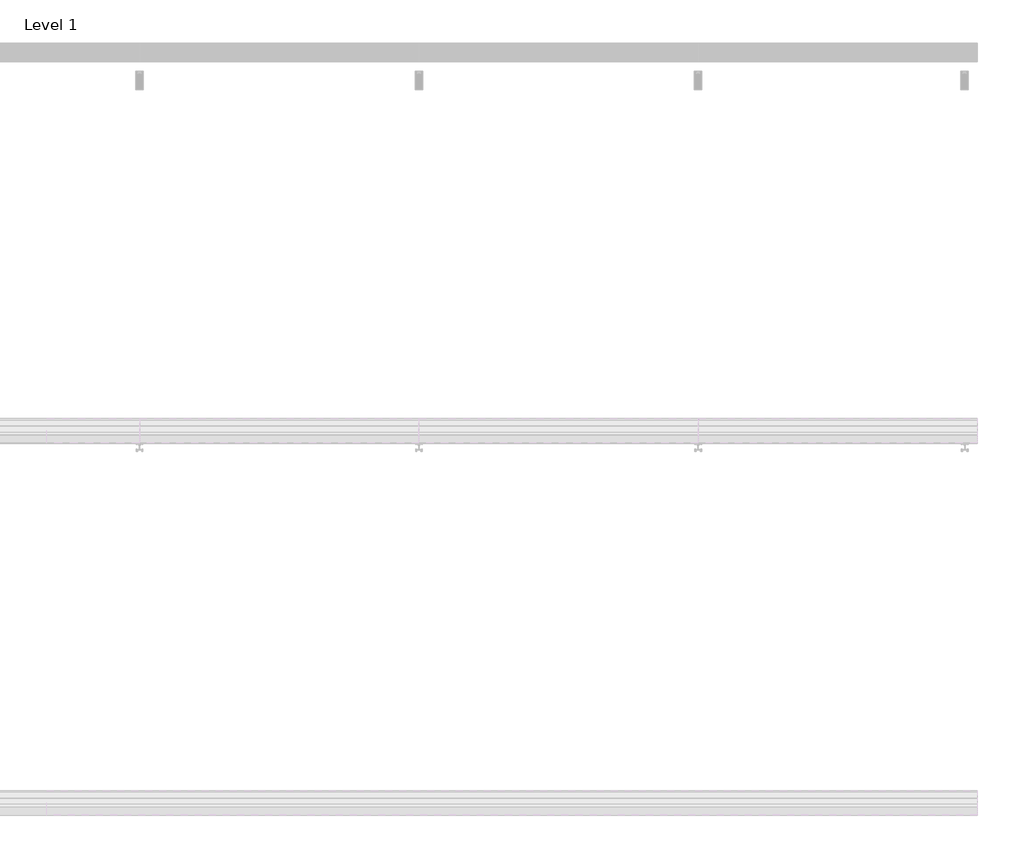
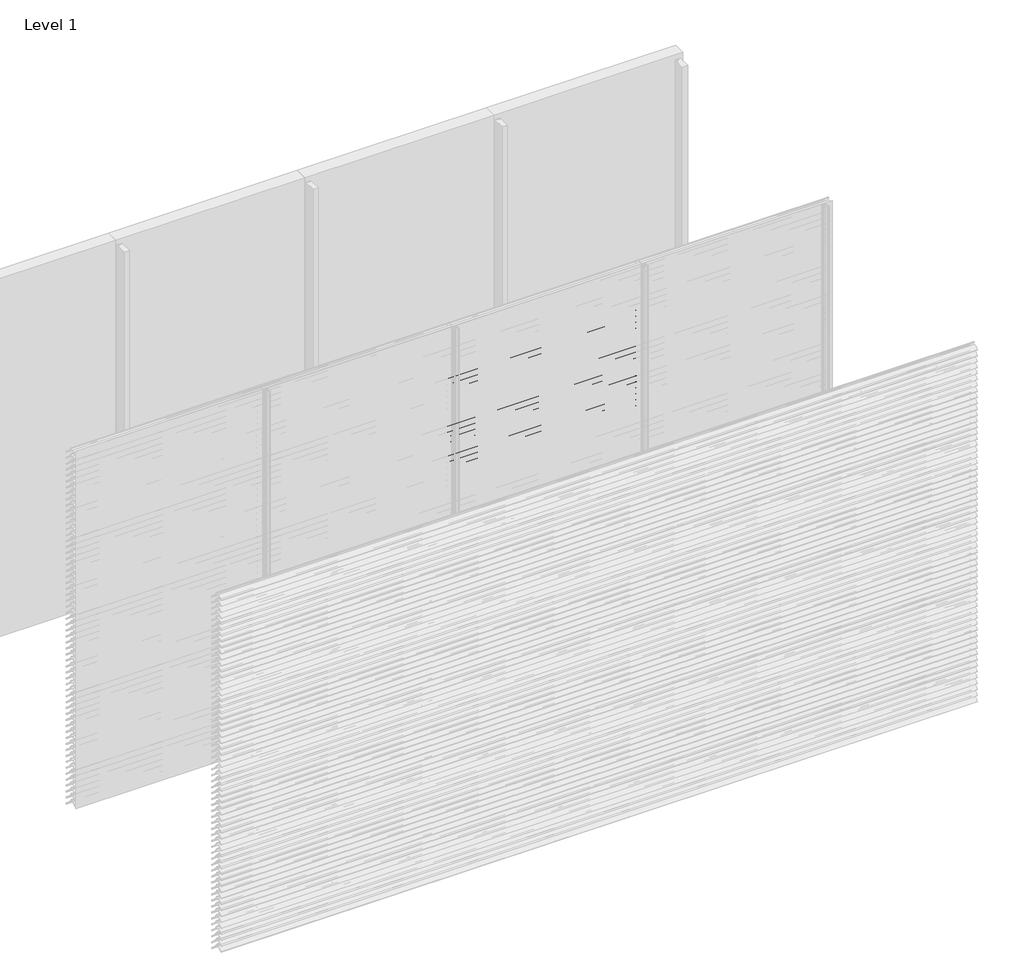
# One storey, part 48 of 173: 17 proxies.
"""IFC4 building model written with IfcOpenShell, lengths in millimetres."""

from ifc_helpers import new_model, si_unit, point, frame, frame_2d, origin, place, context, project, spatial, polyline, circle_curve, trimmed, segment, composite_curve, outline, extrude, element, save

model = new_model("IFC4")

# Units and contexts
model_context = context("Model", 3, world=origin())
ifc_project = project(units=[si_unit("LENGTHUNIT", "METRE", prefix="MILLI")], contexts=[model_context])

# Site, building, storey
site = spatial("IfcSite", under=ifc_project)
building = spatial("IfcBuilding", under=site)
storey = spatial("IfcBuildingStorey", under=building, Name="Level 1", Elevation=0.0)

# Proxies
placement = place(None, origin())
element("IfcBuildingElementProxy", 1, Name="Wall Sweeps", at=placement, inside=storey, context=model_context, shape_type="SweptSolid", body=[
    extrude(outline(composite_curve([segment(polyline([(-41998.0, 2559.1474905), (-41998.0, 2561.6227417)]), True, "CONTINUOUS"), segment(trimmed(circle_curve(frame_2d((-41951.2682172, 2516.2200208)), 65.1557103), [point((-41998.0, 2561.6227417))], [point((-41954.4014323, 2581.3003524))], False, "CARTESIAN"), True, "CONTINUOUS"), segment(polyline([(-41954.4014323, 2581.3003524), (-41934.8315836, 2581.3003524)]), True, "CONTINUOUS"), segment(trimmed(circle_curve(frame_2d((-41732.7329489, 2728.5533172)), 250.0545817), [point((-41934.8315836, 2581.3003524))], [point((-41941.4452143, 2590.8344583))], False, "CARTESIAN"), True, "CONTINUOUS"), segment(trimmed(circle_curve(frame_2d((-41953.2981792, 2585.1737835)), 13.1352966), [point((-41941.4452143, 2590.8344583))], [point((-41953.8171475, 2598.298824))], True, "CARTESIAN"), True, "CONTINUOUS"), segment(polyline([(-41953.8171475, 2598.298824), (-41953.8171475, 2600.0)]), True, "CONTINUOUS"), segment(trimmed(circle_curve(frame_2d((-41953.2981792, 2585.1737835)), 14.8352966), [point((-41953.8171475, 2600.0))], [point((-41939.9637661, 2591.6760487))], False, "CARTESIAN"), True, "CONTINUOUS"), segment(trimmed(circle_curve(frame_2d((-41732.7329489, 2728.5533172)), 248.3545817), [point((-41939.9637661, 2591.6760487))], [point((-41873.8787895, 2524.2059416))], True, "CARTESIAN"), True, "CONTINUOUS"), segment(trimmed(circle_curve(frame_2d((-41883.8147537, 2511.6649442)), 16.0), [point((-41873.8787895, 2524.2059416))], [point((-41867.8648347, 2510.4))], False, "CARTESIAN"), True, "CONTINUOUS"), segment(polyline([(-41867.8648347, 2510.4), (-41869.6712069, 2510.4)]), True, "CONTINUOUS"), segment(trimmed(circle_curve(frame_2d((-41883.8147537, 2511.6649442)), 14.2), [point((-41869.6712069, 2510.4))], [point((-41874.9518628, 2522.7594998))], True, "CARTESIAN"), True, "CONTINUOUS"), segment(trimmed(circle_curve(frame_2d((-41732.7329489, 2728.5533172)), 250.1545817), [point((-41874.9518628, 2522.7594998))], [point((-41933.7064024, 2579.6003524))], False, "CARTESIAN"), True, "CONTINUOUS"), segment(polyline([(-41933.7064024, 2579.6003524), (-41954.3602632, 2579.6003524)]), True, "CONTINUOUS"), segment(trimmed(circle_curve(frame_2d((-41951.2682172, 2516.2200208)), 63.4557103), [point((-41954.3602632, 2579.6003524))], [point((-41998.0, 2559.1474905))], True, "CARTESIAN"), True, "CONTINUOUS")], self_intersect=False)), frame((3000.0, 0.0, 0.0), z_axis=(1.0, 0.0, 0.0), x_axis=(0.0, 1.0, 0.0)), (0.0, 0.0, 1.0), 1500.0),
])
element("IfcBuildingElementProxy", 2, Name="Wall Sweeps", at=placement, inside=storey, context=model_context, shape_type="SweptSolid", body=[
    extrude(outline(composite_curve([segment(polyline([(-41998.0, 2509.1474905), (-41998.0, 2511.6227417)]), True, "CONTINUOUS"), segment(trimmed(circle_curve(frame_2d((-41951.2682172, 2466.2200208)), 65.1557103), [point((-41998.0, 2511.6227417))], [point((-41954.4014323, 2531.3003524))], False, "CARTESIAN"), True, "CONTINUOUS"), segment(polyline([(-41954.4014323, 2531.3003524), (-41934.8315836, 2531.3003524)]), True, "CONTINUOUS"), segment(trimmed(circle_curve(frame_2d((-41732.7329489, 2678.5533172)), 250.0545817), [point((-41934.8315836, 2531.3003524))], [point((-41941.4452143, 2540.8344583))], False, "CARTESIAN"), True, "CONTINUOUS"), segment(trimmed(circle_curve(frame_2d((-41953.2981792, 2535.1737835)), 13.1352966), [point((-41941.4452143, 2540.8344583))], [point((-41953.8171475, 2548.298824))], True, "CARTESIAN"), True, "CONTINUOUS"), segment(polyline([(-41953.8171475, 2548.298824), (-41953.8171475, 2550.0)]), True, "CONTINUOUS"), segment(trimmed(circle_curve(frame_2d((-41953.2981792, 2535.1737835)), 14.8352966), [point((-41953.8171475, 2550.0))], [point((-41939.9637661, 2541.6760487))], False, "CARTESIAN"), True, "CONTINUOUS"), segment(trimmed(circle_curve(frame_2d((-41732.7329489, 2678.5533172)), 248.3545817), [point((-41939.9637661, 2541.6760487))], [point((-41873.8787895, 2474.2059416))], True, "CARTESIAN"), True, "CONTINUOUS"), segment(trimmed(circle_curve(frame_2d((-41883.8147537, 2461.6649442)), 16.0), [point((-41873.8787895, 2474.2059416))], [point((-41867.8648347, 2460.4))], False, "CARTESIAN"), True, "CONTINUOUS"), segment(polyline([(-41867.8648347, 2460.4), (-41869.6712069, 2460.4)]), True, "CONTINUOUS"), segment(trimmed(circle_curve(frame_2d((-41883.8147537, 2461.6649442)), 14.2), [point((-41869.6712069, 2460.4))], [point((-41874.9518628, 2472.7594998))], True, "CARTESIAN"), True, "CONTINUOUS"), segment(trimmed(circle_curve(frame_2d((-41732.7329489, 2678.5533172)), 250.1545817), [point((-41874.9518628, 2472.7594998))], [point((-41933.7064024, 2529.6003524))], False, "CARTESIAN"), True, "CONTINUOUS"), segment(polyline([(-41933.7064024, 2529.6003524), (-41954.3602632, 2529.6003524)]), True, "CONTINUOUS"), segment(trimmed(circle_curve(frame_2d((-41951.2682172, 2466.2200208)), 63.4557103), [point((-41954.3602632, 2529.6003524))], [point((-41998.0, 2509.1474905))], True, "CARTESIAN"), True, "CONTINUOUS")], self_intersect=False)), frame((3000.0, 0.0, 0.0), z_axis=(1.0, 0.0, 0.0), x_axis=(0.0, 1.0, 0.0)), (0.0, 0.0, 1.0), 1500.0),
])
element("IfcBuildingElementProxy", 3, Name="Wall Sweeps", at=placement, inside=storey, context=model_context, shape_type="SweptSolid", body=[
    extrude(outline(composite_curve([segment(polyline([(-41998.0, 2459.1474905), (-41998.0, 2461.6227417)]), True, "CONTINUOUS"), segment(trimmed(circle_curve(frame_2d((-41951.2682172, 2416.2200208)), 65.1557103), [point((-41998.0, 2461.6227417))], [point((-41954.4014323, 2481.3003524))], False, "CARTESIAN"), True, "CONTINUOUS"), segment(polyline([(-41954.4014323, 2481.3003524), (-41934.8315836, 2481.3003524)]), True, "CONTINUOUS"), segment(trimmed(circle_curve(frame_2d((-41732.7329489, 2628.5533172)), 250.0545817), [point((-41934.8315836, 2481.3003524))], [point((-41941.4452143, 2490.8344583))], False, "CARTESIAN"), True, "CONTINUOUS"), segment(trimmed(circle_curve(frame_2d((-41953.2981792, 2485.1737835)), 13.1352966), [point((-41941.4452143, 2490.8344583))], [point((-41953.8171475, 2498.298824))], True, "CARTESIAN"), True, "CONTINUOUS"), segment(polyline([(-41953.8171475, 2498.298824), (-41953.8171475, 2500.0)]), True, "CONTINUOUS"), segment(trimmed(circle_curve(frame_2d((-41953.2981792, 2485.1737835)), 14.8352966), [point((-41953.8171475, 2500.0))], [point((-41939.9637661, 2491.6760487))], False, "CARTESIAN"), True, "CONTINUOUS"), segment(trimmed(circle_curve(frame_2d((-41732.7329489, 2628.5533172)), 248.3545817), [point((-41939.9637661, 2491.6760487))], [point((-41873.8787895, 2424.2059416))], True, "CARTESIAN"), True, "CONTINUOUS"), segment(trimmed(circle_curve(frame_2d((-41883.8147537, 2411.6649442)), 16.0), [point((-41873.8787895, 2424.2059416))], [point((-41867.8648347, 2410.4))], False, "CARTESIAN"), True, "CONTINUOUS"), segment(polyline([(-41867.8648347, 2410.4), (-41869.6712069, 2410.4)]), True, "CONTINUOUS"), segment(trimmed(circle_curve(frame_2d((-41883.8147537, 2411.6649442)), 14.2), [point((-41869.6712069, 2410.4))], [point((-41874.9518628, 2422.7594998))], True, "CARTESIAN"), True, "CONTINUOUS"), segment(trimmed(circle_curve(frame_2d((-41732.7329489, 2628.5533172)), 250.1545817), [point((-41874.9518628, 2422.7594998))], [point((-41933.7064024, 2479.6003524))], False, "CARTESIAN"), True, "CONTINUOUS"), segment(polyline([(-41933.7064024, 2479.6003524), (-41954.3602632, 2479.6003524)]), True, "CONTINUOUS"), segment(trimmed(circle_curve(frame_2d((-41951.2682172, 2416.2200208)), 63.4557103), [point((-41954.3602632, 2479.6003524))], [point((-41998.0, 2459.1474905))], True, "CARTESIAN"), True, "CONTINUOUS")], self_intersect=False)), frame((3000.0, 0.0, 0.0), z_axis=(1.0, 0.0, 0.0), x_axis=(0.0, 1.0, 0.0)), (0.0, 0.0, 1.0), 1500.0),
])
element("IfcBuildingElementProxy", 4, Name="Wall Sweeps", at=placement, inside=storey, context=model_context, shape_type="SweptSolid", body=[
    extrude(outline(composite_curve([segment(polyline([(-41998.0, 2409.1474905), (-41998.0, 2411.6227417)]), True, "CONTINUOUS"), segment(trimmed(circle_curve(frame_2d((-41951.2682172, 2366.2200208)), 65.1557103), [point((-41998.0, 2411.6227417))], [point((-41954.4014323, 2431.3003524))], False, "CARTESIAN"), True, "CONTINUOUS"), segment(polyline([(-41954.4014323, 2431.3003524), (-41934.8315836, 2431.3003524)]), True, "CONTINUOUS"), segment(trimmed(circle_curve(frame_2d((-41732.7329489, 2578.5533172)), 250.0545817), [point((-41934.8315836, 2431.3003524))], [point((-41941.4452143, 2440.8344583))], False, "CARTESIAN"), True, "CONTINUOUS"), segment(trimmed(circle_curve(frame_2d((-41953.2981792, 2435.1737835)), 13.1352966), [point((-41941.4452143, 2440.8344583))], [point((-41953.8171475, 2448.298824))], True, "CARTESIAN"), True, "CONTINUOUS"), segment(polyline([(-41953.8171475, 2448.298824), (-41953.8171475, 2450.0)]), True, "CONTINUOUS"), segment(trimmed(circle_curve(frame_2d((-41953.2981792, 2435.1737835)), 14.8352966), [point((-41953.8171475, 2450.0))], [point((-41939.9637661, 2441.6760487))], False, "CARTESIAN"), True, "CONTINUOUS"), segment(trimmed(circle_curve(frame_2d((-41732.7329489, 2578.5533172)), 248.3545817), [point((-41939.9637661, 2441.6760487))], [point((-41873.8787895, 2374.2059416))], True, "CARTESIAN"), True, "CONTINUOUS"), segment(trimmed(circle_curve(frame_2d((-41883.8147537, 2361.6649442)), 16.0), [point((-41873.8787895, 2374.2059416))], [point((-41867.8648347, 2360.4))], False, "CARTESIAN"), True, "CONTINUOUS"), segment(polyline([(-41867.8648347, 2360.4), (-41869.6712069, 2360.4)]), True, "CONTINUOUS"), segment(trimmed(circle_curve(frame_2d((-41883.8147537, 2361.6649442)), 14.2), [point((-41869.6712069, 2360.4))], [point((-41874.9518628, 2372.7594998))], True, "CARTESIAN"), True, "CONTINUOUS"), segment(trimmed(circle_curve(frame_2d((-41732.7329489, 2578.5533172)), 250.1545817), [point((-41874.9518628, 2372.7594998))], [point((-41933.7064024, 2429.6003524))], False, "CARTESIAN"), True, "CONTINUOUS"), segment(polyline([(-41933.7064024, 2429.6003524), (-41954.3602632, 2429.6003524)]), True, "CONTINUOUS"), segment(trimmed(circle_curve(frame_2d((-41951.2682172, 2366.2200208)), 63.4557103), [point((-41954.3602632, 2429.6003524))], [point((-41998.0, 2409.1474905))], True, "CARTESIAN"), True, "CONTINUOUS")], self_intersect=False)), frame((3000.0, 0.0, 0.0), z_axis=(1.0, 0.0, 0.0), x_axis=(0.0, 1.0, 0.0)), (0.0, 0.0, 1.0), 1500.0),
])
element("IfcBuildingElementProxy", 5, Name="Wall Sweeps", at=placement, inside=storey, context=model_context, shape_type="SweptSolid", body=[
    extrude(outline(composite_curve([segment(polyline([(-41998.0, 2359.1474905), (-41998.0, 2361.6227417)]), True, "CONTINUOUS"), segment(trimmed(circle_curve(frame_2d((-41951.2682172, 2316.2200208)), 65.1557103), [point((-41998.0, 2361.6227417))], [point((-41954.4014323, 2381.3003524))], False, "CARTESIAN"), True, "CONTINUOUS"), segment(polyline([(-41954.4014323, 2381.3003524), (-41934.8315836, 2381.3003524)]), True, "CONTINUOUS"), segment(trimmed(circle_curve(frame_2d((-41732.7329489, 2528.5533172)), 250.0545817), [point((-41934.8315836, 2381.3003524))], [point((-41941.4452143, 2390.8344583))], False, "CARTESIAN"), True, "CONTINUOUS"), segment(trimmed(circle_curve(frame_2d((-41953.2981792, 2385.1737835)), 13.1352966), [point((-41941.4452143, 2390.8344583))], [point((-41953.8171475, 2398.298824))], True, "CARTESIAN"), True, "CONTINUOUS"), segment(polyline([(-41953.8171475, 2398.298824), (-41953.8171475, 2400.0)]), True, "CONTINUOUS"), segment(trimmed(circle_curve(frame_2d((-41953.2981792, 2385.1737835)), 14.8352966), [point((-41953.8171475, 2400.0))], [point((-41939.9637661, 2391.6760487))], False, "CARTESIAN"), True, "CONTINUOUS"), segment(trimmed(circle_curve(frame_2d((-41732.7329489, 2528.5533172)), 248.3545817), [point((-41939.9637661, 2391.6760487))], [point((-41873.8787895, 2324.2059416))], True, "CARTESIAN"), True, "CONTINUOUS"), segment(trimmed(circle_curve(frame_2d((-41883.8147537, 2311.6649442)), 16.0), [point((-41873.8787895, 2324.2059416))], [point((-41867.8648347, 2310.4))], False, "CARTESIAN"), True, "CONTINUOUS"), segment(polyline([(-41867.8648347, 2310.4), (-41869.6712069, 2310.4)]), True, "CONTINUOUS"), segment(trimmed(circle_curve(frame_2d((-41883.8147537, 2311.6649442)), 14.2), [point((-41869.6712069, 2310.4))], [point((-41874.9518628, 2322.7594998))], True, "CARTESIAN"), True, "CONTINUOUS"), segment(trimmed(circle_curve(frame_2d((-41732.7329489, 2528.5533172)), 250.1545817), [point((-41874.9518628, 2322.7594998))], [point((-41933.7064024, 2379.6003524))], False, "CARTESIAN"), True, "CONTINUOUS"), segment(polyline([(-41933.7064024, 2379.6003524), (-41954.3602632, 2379.6003524)]), True, "CONTINUOUS"), segment(trimmed(circle_curve(frame_2d((-41951.2682172, 2316.2200208)), 63.4557103), [point((-41954.3602632, 2379.6003524))], [point((-41998.0, 2359.1474905))], True, "CARTESIAN"), True, "CONTINUOUS")], self_intersect=False)), frame((3000.0, 0.0, 0.0), z_axis=(1.0, 0.0, 0.0), x_axis=(0.0, 1.0, 0.0)), (0.0, 0.0, 1.0), 1500.0),
])
element("IfcBuildingElementProxy", 6, Name="Wall Sweeps", at=placement, inside=storey, context=model_context, shape_type="SweptSolid", body=[
    extrude(outline(composite_curve([segment(polyline([(-41998.0, 2309.1474905), (-41998.0, 2311.6227417)]), True, "CONTINUOUS"), segment(trimmed(circle_curve(frame_2d((-41951.2682172, 2266.2200208)), 65.1557103), [point((-41998.0, 2311.6227417))], [point((-41954.4014323, 2331.3003524))], False, "CARTESIAN"), True, "CONTINUOUS"), segment(polyline([(-41954.4014323, 2331.3003524), (-41934.8315836, 2331.3003524)]), True, "CONTINUOUS"), segment(trimmed(circle_curve(frame_2d((-41732.7329489, 2478.5533172)), 250.0545817), [point((-41934.8315836, 2331.3003524))], [point((-41941.4452143, 2340.8344583))], False, "CARTESIAN"), True, "CONTINUOUS"), segment(trimmed(circle_curve(frame_2d((-41953.2981792, 2335.1737835)), 13.1352966), [point((-41941.4452143, 2340.8344583))], [point((-41953.8171475, 2348.298824))], True, "CARTESIAN"), True, "CONTINUOUS"), segment(polyline([(-41953.8171475, 2348.298824), (-41953.8171475, 2350.0)]), True, "CONTINUOUS"), segment(trimmed(circle_curve(frame_2d((-41953.2981792, 2335.1737835)), 14.8352966), [point((-41953.8171475, 2350.0))], [point((-41939.9637661, 2341.6760487))], False, "CARTESIAN"), True, "CONTINUOUS"), segment(trimmed(circle_curve(frame_2d((-41732.7329489, 2478.5533172)), 248.3545817), [point((-41939.9637661, 2341.6760487))], [point((-41873.8787895, 2274.2059416))], True, "CARTESIAN"), True, "CONTINUOUS"), segment(trimmed(circle_curve(frame_2d((-41883.8147537, 2261.6649442)), 16.0), [point((-41873.8787895, 2274.2059416))], [point((-41867.8648347, 2260.4))], False, "CARTESIAN"), True, "CONTINUOUS"), segment(polyline([(-41867.8648347, 2260.4), (-41869.6712069, 2260.4)]), True, "CONTINUOUS"), segment(trimmed(circle_curve(frame_2d((-41883.8147537, 2261.6649442)), 14.2), [point((-41869.6712069, 2260.4))], [point((-41874.9518628, 2272.7594998))], True, "CARTESIAN"), True, "CONTINUOUS"), segment(trimmed(circle_curve(frame_2d((-41732.7329489, 2478.5533172)), 250.1545817), [point((-41874.9518628, 2272.7594998))], [point((-41933.7064024, 2329.6003524))], False, "CARTESIAN"), True, "CONTINUOUS"), segment(polyline([(-41933.7064024, 2329.6003524), (-41954.3602632, 2329.6003524)]), True, "CONTINUOUS"), segment(trimmed(circle_curve(frame_2d((-41951.2682172, 2266.2200208)), 63.4557103), [point((-41954.3602632, 2329.6003524))], [point((-41998.0, 2309.1474905))], True, "CARTESIAN"), True, "CONTINUOUS")], self_intersect=False)), frame((3000.0, 0.0, 0.0), z_axis=(1.0, 0.0, 0.0), x_axis=(0.0, 1.0, 0.0)), (0.0, 0.0, 1.0), 1500.0),
])
element("IfcBuildingElementProxy", 7, Name="Wall Sweeps", at=placement, inside=storey, context=model_context, shape_type="SweptSolid", body=[
    extrude(outline(composite_curve([segment(polyline([(-41998.0, 2259.1474905), (-41998.0, 2261.6227417)]), True, "CONTINUOUS"), segment(trimmed(circle_curve(frame_2d((-41951.2682172, 2216.2200208)), 65.1557103), [point((-41998.0, 2261.6227417))], [point((-41954.4014323, 2281.3003524))], False, "CARTESIAN"), True, "CONTINUOUS"), segment(polyline([(-41954.4014323, 2281.3003524), (-41934.8315836, 2281.3003524)]), True, "CONTINUOUS"), segment(trimmed(circle_curve(frame_2d((-41732.7329489, 2428.5533172)), 250.0545817), [point((-41934.8315836, 2281.3003524))], [point((-41941.4452143, 2290.8344583))], False, "CARTESIAN"), True, "CONTINUOUS"), segment(trimmed(circle_curve(frame_2d((-41953.2981792, 2285.1737835)), 13.1352966), [point((-41941.4452143, 2290.8344583))], [point((-41953.8171475, 2298.298824))], True, "CARTESIAN"), True, "CONTINUOUS"), segment(polyline([(-41953.8171475, 2298.298824), (-41953.8171475, 2300.0)]), True, "CONTINUOUS"), segment(trimmed(circle_curve(frame_2d((-41953.2981792, 2285.1737835)), 14.8352966), [point((-41953.8171475, 2300.0))], [point((-41939.9637661, 2291.6760487))], False, "CARTESIAN"), True, "CONTINUOUS"), segment(trimmed(circle_curve(frame_2d((-41732.7329489, 2428.5533172)), 248.3545817), [point((-41939.9637661, 2291.6760487))], [point((-41873.8787895, 2224.2059416))], True, "CARTESIAN"), True, "CONTINUOUS"), segment(trimmed(circle_curve(frame_2d((-41883.8147537, 2211.6649442)), 16.0), [point((-41873.8787895, 2224.2059416))], [point((-41867.8648347, 2210.4))], False, "CARTESIAN"), True, "CONTINUOUS"), segment(polyline([(-41867.8648347, 2210.4), (-41869.6712069, 2210.4)]), True, "CONTINUOUS"), segment(trimmed(circle_curve(frame_2d((-41883.8147537, 2211.6649442)), 14.2), [point((-41869.6712069, 2210.4))], [point((-41874.9518628, 2222.7594998))], True, "CARTESIAN"), True, "CONTINUOUS"), segment(trimmed(circle_curve(frame_2d((-41732.7329489, 2428.5533172)), 250.1545817), [point((-41874.9518628, 2222.7594998))], [point((-41933.7064024, 2279.6003524))], False, "CARTESIAN"), True, "CONTINUOUS"), segment(polyline([(-41933.7064024, 2279.6003524), (-41954.3602632, 2279.6003524)]), True, "CONTINUOUS"), segment(trimmed(circle_curve(frame_2d((-41951.2682172, 2216.2200208)), 63.4557103), [point((-41954.3602632, 2279.6003524))], [point((-41998.0, 2259.1474905))], True, "CARTESIAN"), True, "CONTINUOUS")], self_intersect=False)), frame((3000.0, 0.0, 0.0), z_axis=(1.0, 0.0, 0.0), x_axis=(0.0, 1.0, 0.0)), (0.0, 0.0, 1.0), 1500.0),
])
element("IfcBuildingElementProxy", 8, Name="Wall Sweeps", at=placement, inside=storey, context=model_context, shape_type="SweptSolid", body=[
    extrude(outline(composite_curve([segment(polyline([(-41998.0, 2209.1474905), (-41998.0, 2211.6227417)]), True, "CONTINUOUS"), segment(trimmed(circle_curve(frame_2d((-41951.2682172, 2166.2200208)), 65.1557103), [point((-41998.0, 2211.6227417))], [point((-41954.4014323, 2231.3003524))], False, "CARTESIAN"), True, "CONTINUOUS"), segment(polyline([(-41954.4014323, 2231.3003524), (-41934.8315836, 2231.3003524)]), True, "CONTINUOUS"), segment(trimmed(circle_curve(frame_2d((-41732.7329489, 2378.5533172)), 250.0545817), [point((-41934.8315836, 2231.3003524))], [point((-41941.4452143, 2240.8344583))], False, "CARTESIAN"), True, "CONTINUOUS"), segment(trimmed(circle_curve(frame_2d((-41953.2981792, 2235.1737835)), 13.1352966), [point((-41941.4452143, 2240.8344583))], [point((-41953.8171475, 2248.298824))], True, "CARTESIAN"), True, "CONTINUOUS"), segment(polyline([(-41953.8171475, 2248.298824), (-41953.8171475, 2250.0)]), True, "CONTINUOUS"), segment(trimmed(circle_curve(frame_2d((-41953.2981792, 2235.1737835)), 14.8352966), [point((-41953.8171475, 2250.0))], [point((-41939.9637661, 2241.6760487))], False, "CARTESIAN"), True, "CONTINUOUS"), segment(trimmed(circle_curve(frame_2d((-41732.7329489, 2378.5533172)), 248.3545817), [point((-41939.9637661, 2241.6760487))], [point((-41873.8787895, 2174.2059416))], True, "CARTESIAN"), True, "CONTINUOUS"), segment(trimmed(circle_curve(frame_2d((-41883.8147537, 2161.6649442)), 16.0), [point((-41873.8787895, 2174.2059416))], [point((-41867.8648347, 2160.4))], False, "CARTESIAN"), True, "CONTINUOUS"), segment(polyline([(-41867.8648347, 2160.4), (-41869.6712069, 2160.4)]), True, "CONTINUOUS"), segment(trimmed(circle_curve(frame_2d((-41883.8147537, 2161.6649442)), 14.2), [point((-41869.6712069, 2160.4))], [point((-41874.9518628, 2172.7594998))], True, "CARTESIAN"), True, "CONTINUOUS"), segment(trimmed(circle_curve(frame_2d((-41732.7329489, 2378.5533172)), 250.1545817), [point((-41874.9518628, 2172.7594998))], [point((-41933.7064024, 2229.6003524))], False, "CARTESIAN"), True, "CONTINUOUS"), segment(polyline([(-41933.7064024, 2229.6003524), (-41954.3602632, 2229.6003524)]), True, "CONTINUOUS"), segment(trimmed(circle_curve(frame_2d((-41951.2682172, 2166.2200208)), 63.4557103), [point((-41954.3602632, 2229.6003524))], [point((-41998.0, 2209.1474905))], True, "CARTESIAN"), True, "CONTINUOUS")], self_intersect=False)), frame((3000.0, 0.0, 0.0), z_axis=(1.0, 0.0, 0.0), x_axis=(0.0, 1.0, 0.0)), (0.0, 0.0, 1.0), 1500.0),
])
element("IfcBuildingElementProxy", 9, Name="Wall Sweeps", at=placement, inside=storey, context=model_context, shape_type="SweptSolid", body=[
    extrude(outline(composite_curve([segment(polyline([(-41998.0, 2159.1474905), (-41998.0, 2161.6227417)]), True, "CONTINUOUS"), segment(trimmed(circle_curve(frame_2d((-41951.2682172, 2116.2200208)), 65.1557103), [point((-41998.0, 2161.6227417))], [point((-41954.4014323, 2181.3003524))], False, "CARTESIAN"), True, "CONTINUOUS"), segment(polyline([(-41954.4014323, 2181.3003524), (-41934.8315836, 2181.3003524)]), True, "CONTINUOUS"), segment(trimmed(circle_curve(frame_2d((-41732.7329489, 2328.5533172)), 250.0545817), [point((-41934.8315836, 2181.3003524))], [point((-41941.4452143, 2190.8344583))], False, "CARTESIAN"), True, "CONTINUOUS"), segment(trimmed(circle_curve(frame_2d((-41953.2981792, 2185.1737835)), 13.1352966), [point((-41941.4452143, 2190.8344583))], [point((-41953.8171475, 2198.298824))], True, "CARTESIAN"), True, "CONTINUOUS"), segment(polyline([(-41953.8171475, 2198.298824), (-41953.8171475, 2200.0)]), True, "CONTINUOUS"), segment(trimmed(circle_curve(frame_2d((-41953.2981792, 2185.1737835)), 14.8352966), [point((-41953.8171475, 2200.0))], [point((-41939.9637661, 2191.6760487))], False, "CARTESIAN"), True, "CONTINUOUS"), segment(trimmed(circle_curve(frame_2d((-41732.7329489, 2328.5533172)), 248.3545817), [point((-41939.9637661, 2191.6760487))], [point((-41873.8787895, 2124.2059416))], True, "CARTESIAN"), True, "CONTINUOUS"), segment(trimmed(circle_curve(frame_2d((-41883.8147537, 2111.6649442)), 16.0), [point((-41873.8787895, 2124.2059416))], [point((-41867.8648347, 2110.4))], False, "CARTESIAN"), True, "CONTINUOUS"), segment(polyline([(-41867.8648347, 2110.4), (-41869.6712069, 2110.4)]), True, "CONTINUOUS"), segment(trimmed(circle_curve(frame_2d((-41883.8147537, 2111.6649442)), 14.2), [point((-41869.6712069, 2110.4))], [point((-41874.9518628, 2122.7594998))], True, "CARTESIAN"), True, "CONTINUOUS"), segment(trimmed(circle_curve(frame_2d((-41732.7329489, 2328.5533172)), 250.1545817), [point((-41874.9518628, 2122.7594998))], [point((-41933.7064024, 2179.6003524))], False, "CARTESIAN"), True, "CONTINUOUS"), segment(polyline([(-41933.7064024, 2179.6003524), (-41954.3602632, 2179.6003524)]), True, "CONTINUOUS"), segment(trimmed(circle_curve(frame_2d((-41951.2682172, 2116.2200208)), 63.4557103), [point((-41954.3602632, 2179.6003524))], [point((-41998.0, 2159.1474905))], True, "CARTESIAN"), True, "CONTINUOUS")], self_intersect=False)), frame((3000.0, 0.0, 0.0), z_axis=(1.0, 0.0, 0.0), x_axis=(0.0, 1.0, 0.0)), (0.0, 0.0, 1.0), 1500.0),
])
element("IfcBuildingElementProxy", 10, Name="Wall Sweeps", at=placement, inside=storey, context=model_context, shape_type="SweptSolid", body=[
    extrude(outline(composite_curve([segment(polyline([(-41998.0, 2109.1474905), (-41998.0, 2111.6227417)]), True, "CONTINUOUS"), segment(trimmed(circle_curve(frame_2d((-41951.2682172, 2066.2200208)), 65.1557103), [point((-41998.0, 2111.6227417))], [point((-41954.4014323, 2131.3003524))], False, "CARTESIAN"), True, "CONTINUOUS"), segment(polyline([(-41954.4014323, 2131.3003524), (-41934.8315836, 2131.3003524)]), True, "CONTINUOUS"), segment(trimmed(circle_curve(frame_2d((-41732.7329489, 2278.5533172)), 250.0545817), [point((-41934.8315836, 2131.3003524))], [point((-41941.4452143, 2140.8344583))], False, "CARTESIAN"), True, "CONTINUOUS"), segment(trimmed(circle_curve(frame_2d((-41953.2981792, 2135.1737835)), 13.1352966), [point((-41941.4452143, 2140.8344583))], [point((-41953.8171475, 2148.298824))], True, "CARTESIAN"), True, "CONTINUOUS"), segment(polyline([(-41953.8171475, 2148.298824), (-41953.8171475, 2150.0)]), True, "CONTINUOUS"), segment(trimmed(circle_curve(frame_2d((-41953.2981792, 2135.1737835)), 14.8352966), [point((-41953.8171475, 2150.0))], [point((-41939.9637661, 2141.6760487))], False, "CARTESIAN"), True, "CONTINUOUS"), segment(trimmed(circle_curve(frame_2d((-41732.7329489, 2278.5533172)), 248.3545817), [point((-41939.9637661, 2141.6760487))], [point((-41873.8787895, 2074.2059416))], True, "CARTESIAN"), True, "CONTINUOUS"), segment(trimmed(circle_curve(frame_2d((-41883.8147537, 2061.6649442)), 16.0), [point((-41873.8787895, 2074.2059416))], [point((-41867.8648347, 2060.4))], False, "CARTESIAN"), True, "CONTINUOUS"), segment(polyline([(-41867.8648347, 2060.4), (-41869.6712069, 2060.4)]), True, "CONTINUOUS"), segment(trimmed(circle_curve(frame_2d((-41883.8147537, 2061.6649442)), 14.2), [point((-41869.6712069, 2060.4))], [point((-41874.9518628, 2072.7594998))], True, "CARTESIAN"), True, "CONTINUOUS"), segment(trimmed(circle_curve(frame_2d((-41732.7329489, 2278.5533172)), 250.1545817), [point((-41874.9518628, 2072.7594998))], [point((-41933.7064024, 2129.6003524))], False, "CARTESIAN"), True, "CONTINUOUS"), segment(polyline([(-41933.7064024, 2129.6003524), (-41954.3602632, 2129.6003524)]), True, "CONTINUOUS"), segment(trimmed(circle_curve(frame_2d((-41951.2682172, 2066.2200208)), 63.4557103), [point((-41954.3602632, 2129.6003524))], [point((-41998.0, 2109.1474905))], True, "CARTESIAN"), True, "CONTINUOUS")], self_intersect=False)), frame((3000.0, 0.0, 0.0), z_axis=(1.0, 0.0, 0.0), x_axis=(0.0, 1.0, 0.0)), (0.0, 0.0, 1.0), 1500.0),
])
element("IfcBuildingElementProxy", 11, Name="Wall Sweeps", at=placement, inside=storey, context=model_context, shape_type="SweptSolid", body=[
    extrude(outline(composite_curve([segment(polyline([(-41998.0, 2059.1474905), (-41998.0, 2061.6227417)]), True, "CONTINUOUS"), segment(trimmed(circle_curve(frame_2d((-41951.2682172, 2016.2200208)), 65.1557103), [point((-41998.0, 2061.6227417))], [point((-41954.4014323, 2081.3003524))], False, "CARTESIAN"), True, "CONTINUOUS"), segment(polyline([(-41954.4014323, 2081.3003524), (-41934.8315836, 2081.3003524)]), True, "CONTINUOUS"), segment(trimmed(circle_curve(frame_2d((-41732.7329489, 2228.5533172)), 250.0545817), [point((-41934.8315836, 2081.3003524))], [point((-41941.4452143, 2090.8344583))], False, "CARTESIAN"), True, "CONTINUOUS"), segment(trimmed(circle_curve(frame_2d((-41953.2981792, 2085.1737835)), 13.1352966), [point((-41941.4452143, 2090.8344583))], [point((-41953.8171475, 2098.298824))], True, "CARTESIAN"), True, "CONTINUOUS"), segment(polyline([(-41953.8171475, 2098.298824), (-41953.8171475, 2100.0)]), True, "CONTINUOUS"), segment(trimmed(circle_curve(frame_2d((-41953.2981792, 2085.1737835)), 14.8352966), [point((-41953.8171475, 2100.0))], [point((-41939.9637661, 2091.6760487))], False, "CARTESIAN"), True, "CONTINUOUS"), segment(trimmed(circle_curve(frame_2d((-41732.7329489, 2228.5533172)), 248.3545817), [point((-41939.9637661, 2091.6760487))], [point((-41873.8787895, 2024.2059416))], True, "CARTESIAN"), True, "CONTINUOUS"), segment(trimmed(circle_curve(frame_2d((-41883.8147537, 2011.6649442)), 16.0), [point((-41873.8787895, 2024.2059416))], [point((-41867.8648347, 2010.4))], False, "CARTESIAN"), True, "CONTINUOUS"), segment(polyline([(-41867.8648347, 2010.4), (-41869.6712069, 2010.4)]), True, "CONTINUOUS"), segment(trimmed(circle_curve(frame_2d((-41883.8147537, 2011.6649442)), 14.2), [point((-41869.6712069, 2010.4))], [point((-41874.9518628, 2022.7594998))], True, "CARTESIAN"), True, "CONTINUOUS"), segment(trimmed(circle_curve(frame_2d((-41732.7329489, 2228.5533172)), 250.1545817), [point((-41874.9518628, 2022.7594998))], [point((-41933.7064024, 2079.6003524))], False, "CARTESIAN"), True, "CONTINUOUS"), segment(polyline([(-41933.7064024, 2079.6003524), (-41954.3602632, 2079.6003524)]), True, "CONTINUOUS"), segment(trimmed(circle_curve(frame_2d((-41951.2682172, 2016.2200208)), 63.4557103), [point((-41954.3602632, 2079.6003524))], [point((-41998.0, 2059.1474905))], True, "CARTESIAN"), True, "CONTINUOUS")], self_intersect=False)), frame((3000.0, 0.0, 0.0), z_axis=(1.0, 0.0, 0.0), x_axis=(0.0, 1.0, 0.0)), (0.0, 0.0, 1.0), 1500.0),
])
element("IfcBuildingElementProxy", 12, Name="Wall Sweeps", at=placement, inside=storey, context=model_context, shape_type="SweptSolid", body=[
    extrude(outline(composite_curve([segment(polyline([(-41998.0, 2009.1474905), (-41998.0, 2011.6227417)]), True, "CONTINUOUS"), segment(trimmed(circle_curve(frame_2d((-41951.2682172, 1966.2200208)), 65.1557103), [point((-41998.0, 2011.6227417))], [point((-41954.4014323, 2031.3003524))], False, "CARTESIAN"), True, "CONTINUOUS"), segment(polyline([(-41954.4014323, 2031.3003524), (-41934.8315836, 2031.3003524)]), True, "CONTINUOUS"), segment(trimmed(circle_curve(frame_2d((-41732.7329489, 2178.5533172)), 250.0545817), [point((-41934.8315836, 2031.3003524))], [point((-41941.4452143, 2040.8344583))], False, "CARTESIAN"), True, "CONTINUOUS"), segment(trimmed(circle_curve(frame_2d((-41953.2981792, 2035.1737835)), 13.1352966), [point((-41941.4452143, 2040.8344583))], [point((-41953.8171475, 2048.298824))], True, "CARTESIAN"), True, "CONTINUOUS"), segment(polyline([(-41953.8171475, 2048.298824), (-41953.8171475, 2050.0)]), True, "CONTINUOUS"), segment(trimmed(circle_curve(frame_2d((-41953.2981792, 2035.1737835)), 14.8352966), [point((-41953.8171475, 2050.0))], [point((-41939.9637661, 2041.6760487))], False, "CARTESIAN"), True, "CONTINUOUS"), segment(trimmed(circle_curve(frame_2d((-41732.7329489, 2178.5533172)), 248.3545817), [point((-41939.9637661, 2041.6760487))], [point((-41873.8787895, 1974.2059416))], True, "CARTESIAN"), True, "CONTINUOUS"), segment(trimmed(circle_curve(frame_2d((-41883.8147537, 1961.6649442)), 16.0), [point((-41873.8787895, 1974.2059416))], [point((-41867.8648347, 1960.4))], False, "CARTESIAN"), True, "CONTINUOUS"), segment(polyline([(-41867.8648347, 1960.4), (-41869.6712069, 1960.4)]), True, "CONTINUOUS"), segment(trimmed(circle_curve(frame_2d((-41883.8147537, 1961.6649442)), 14.2), [point((-41869.6712069, 1960.4))], [point((-41874.9518628, 1972.7594998))], True, "CARTESIAN"), True, "CONTINUOUS"), segment(trimmed(circle_curve(frame_2d((-41732.7329489, 2178.5533172)), 250.1545817), [point((-41874.9518628, 1972.7594998))], [point((-41933.7064024, 2029.6003524))], False, "CARTESIAN"), True, "CONTINUOUS"), segment(polyline([(-41933.7064024, 2029.6003524), (-41954.3602632, 2029.6003524)]), True, "CONTINUOUS"), segment(trimmed(circle_curve(frame_2d((-41951.2682172, 1966.2200208)), 63.4557103), [point((-41954.3602632, 2029.6003524))], [point((-41998.0, 2009.1474905))], True, "CARTESIAN"), True, "CONTINUOUS")], self_intersect=False)), frame((3000.0, 0.0, 0.0), z_axis=(1.0, 0.0, 0.0), x_axis=(0.0, 1.0, 0.0)), (0.0, 0.0, 1.0), 1500.0),
])
element("IfcBuildingElementProxy", 13, Name="Wall Sweeps", at=placement, inside=storey, context=model_context, shape_type="SweptSolid", body=[
    extrude(outline(composite_curve([segment(polyline([(-41998.0, 1959.1474905), (-41998.0, 1961.6227417)]), True, "CONTINUOUS"), segment(trimmed(circle_curve(frame_2d((-41951.2682172, 1916.2200208)), 65.1557103), [point((-41998.0, 1961.6227417))], [point((-41954.4014323, 1981.3003524))], False, "CARTESIAN"), True, "CONTINUOUS"), segment(polyline([(-41954.4014323, 1981.3003524), (-41934.8315836, 1981.3003524)]), True, "CONTINUOUS"), segment(trimmed(circle_curve(frame_2d((-41732.7329489, 2128.5533172)), 250.0545817), [point((-41934.8315836, 1981.3003524))], [point((-41941.4452143, 1990.8344583))], False, "CARTESIAN"), True, "CONTINUOUS"), segment(trimmed(circle_curve(frame_2d((-41953.2981792, 1985.1737835)), 13.1352966), [point((-41941.4452143, 1990.8344583))], [point((-41953.8171475, 1998.298824))], True, "CARTESIAN"), True, "CONTINUOUS"), segment(polyline([(-41953.8171475, 1998.298824), (-41953.8171475, 2000.0)]), True, "CONTINUOUS"), segment(trimmed(circle_curve(frame_2d((-41953.2981792, 1985.1737835)), 14.8352966), [point((-41953.8171475, 2000.0))], [point((-41939.9637661, 1991.6760487))], False, "CARTESIAN"), True, "CONTINUOUS"), segment(trimmed(circle_curve(frame_2d((-41732.7329489, 2128.5533172)), 248.3545817), [point((-41939.9637661, 1991.6760487))], [point((-41873.8787895, 1924.2059416))], True, "CARTESIAN"), True, "CONTINUOUS"), segment(trimmed(circle_curve(frame_2d((-41883.8147537, 1911.6649442)), 16.0), [point((-41873.8787895, 1924.2059416))], [point((-41867.8648347, 1910.4))], False, "CARTESIAN"), True, "CONTINUOUS"), segment(polyline([(-41867.8648347, 1910.4), (-41869.6712069, 1910.4)]), True, "CONTINUOUS"), segment(trimmed(circle_curve(frame_2d((-41883.8147537, 1911.6649442)), 14.2), [point((-41869.6712069, 1910.4))], [point((-41874.9518628, 1922.7594998))], True, "CARTESIAN"), True, "CONTINUOUS"), segment(trimmed(circle_curve(frame_2d((-41732.7329489, 2128.5533172)), 250.1545817), [point((-41874.9518628, 1922.7594998))], [point((-41933.7064024, 1979.6003524))], False, "CARTESIAN"), True, "CONTINUOUS"), segment(polyline([(-41933.7064024, 1979.6003524), (-41954.3602632, 1979.6003524)]), True, "CONTINUOUS"), segment(trimmed(circle_curve(frame_2d((-41951.2682172, 1916.2200208)), 63.4557103), [point((-41954.3602632, 1979.6003524))], [point((-41998.0, 1959.1474905))], True, "CARTESIAN"), True, "CONTINUOUS")], self_intersect=False)), frame((3000.0, 0.0, 0.0), z_axis=(1.0, 0.0, 0.0), x_axis=(0.0, 1.0, 0.0)), (0.0, 0.0, 1.0), 1500.0),
])
element("IfcBuildingElementProxy", 14, Name="Wall Sweeps", at=placement, inside=storey, context=model_context, shape_type="SweptSolid", body=[
    extrude(outline(composite_curve([segment(polyline([(-41998.0, 1909.1474905), (-41998.0, 1911.6227417)]), True, "CONTINUOUS"), segment(trimmed(circle_curve(frame_2d((-41951.2682172, 1866.2200208)), 65.1557103), [point((-41998.0, 1911.6227417))], [point((-41954.4014323, 1931.3003524))], False, "CARTESIAN"), True, "CONTINUOUS"), segment(polyline([(-41954.4014323, 1931.3003524), (-41934.8315836, 1931.3003524)]), True, "CONTINUOUS"), segment(trimmed(circle_curve(frame_2d((-41732.7329489, 2078.5533172)), 250.0545817), [point((-41934.8315836, 1931.3003524))], [point((-41941.4452143, 1940.8344583))], False, "CARTESIAN"), True, "CONTINUOUS"), segment(trimmed(circle_curve(frame_2d((-41953.2981792, 1935.1737835)), 13.1352966), [point((-41941.4452143, 1940.8344583))], [point((-41953.8171475, 1948.298824))], True, "CARTESIAN"), True, "CONTINUOUS"), segment(polyline([(-41953.8171475, 1948.298824), (-41953.8171475, 1950.0)]), True, "CONTINUOUS"), segment(trimmed(circle_curve(frame_2d((-41953.2981792, 1935.1737835)), 14.8352966), [point((-41953.8171475, 1950.0))], [point((-41939.9637661, 1941.6760487))], False, "CARTESIAN"), True, "CONTINUOUS"), segment(trimmed(circle_curve(frame_2d((-41732.7329489, 2078.5533172)), 248.3545817), [point((-41939.9637661, 1941.6760487))], [point((-41873.8787895, 1874.2059416))], True, "CARTESIAN"), True, "CONTINUOUS"), segment(trimmed(circle_curve(frame_2d((-41883.8147537, 1861.6649442)), 16.0), [point((-41873.8787895, 1874.2059416))], [point((-41867.8648347, 1860.4))], False, "CARTESIAN"), True, "CONTINUOUS"), segment(polyline([(-41867.8648347, 1860.4), (-41869.6712069, 1860.4)]), True, "CONTINUOUS"), segment(trimmed(circle_curve(frame_2d((-41883.8147537, 1861.6649442)), 14.2), [point((-41869.6712069, 1860.4))], [point((-41874.9518628, 1872.7594998))], True, "CARTESIAN"), True, "CONTINUOUS"), segment(trimmed(circle_curve(frame_2d((-41732.7329489, 2078.5533172)), 250.1545817), [point((-41874.9518628, 1872.7594998))], [point((-41933.7064024, 1929.6003524))], False, "CARTESIAN"), True, "CONTINUOUS"), segment(polyline([(-41933.7064024, 1929.6003524), (-41954.3602632, 1929.6003524)]), True, "CONTINUOUS"), segment(trimmed(circle_curve(frame_2d((-41951.2682172, 1866.2200208)), 63.4557103), [point((-41954.3602632, 1929.6003524))], [point((-41998.0, 1909.1474905))], True, "CARTESIAN"), True, "CONTINUOUS")], self_intersect=False)), frame((3000.0, 0.0, 0.0), z_axis=(1.0, 0.0, 0.0), x_axis=(0.0, 1.0, 0.0)), (0.0, 0.0, 1.0), 1500.0),
])
element("IfcBuildingElementProxy", 15, Name="Wall Sweeps", at=placement, inside=storey, context=model_context, shape_type="SweptSolid", body=[
    extrude(outline(composite_curve([segment(polyline([(-41998.0, 1859.1474905), (-41998.0, 1861.6227417)]), True, "CONTINUOUS"), segment(trimmed(circle_curve(frame_2d((-41951.2682172, 1816.2200208)), 65.1557103), [point((-41998.0, 1861.6227417))], [point((-41954.4014323, 1881.3003524))], False, "CARTESIAN"), True, "CONTINUOUS"), segment(polyline([(-41954.4014323, 1881.3003524), (-41934.8315836, 1881.3003524)]), True, "CONTINUOUS"), segment(trimmed(circle_curve(frame_2d((-41732.7329489, 2028.5533172)), 250.0545817), [point((-41934.8315836, 1881.3003524))], [point((-41941.4452143, 1890.8344583))], False, "CARTESIAN"), True, "CONTINUOUS"), segment(trimmed(circle_curve(frame_2d((-41953.2981792, 1885.1737835)), 13.1352966), [point((-41941.4452143, 1890.8344583))], [point((-41953.8171475, 1898.298824))], True, "CARTESIAN"), True, "CONTINUOUS"), segment(polyline([(-41953.8171475, 1898.298824), (-41953.8171475, 1900.0)]), True, "CONTINUOUS"), segment(trimmed(circle_curve(frame_2d((-41953.2981792, 1885.1737835)), 14.8352966), [point((-41953.8171475, 1900.0))], [point((-41939.9637661, 1891.6760487))], False, "CARTESIAN"), True, "CONTINUOUS"), segment(trimmed(circle_curve(frame_2d((-41732.7329489, 2028.5533172)), 248.3545817), [point((-41939.9637661, 1891.6760487))], [point((-41873.8787895, 1824.2059416))], True, "CARTESIAN"), True, "CONTINUOUS"), segment(trimmed(circle_curve(frame_2d((-41883.8147537, 1811.6649442)), 16.0), [point((-41873.8787895, 1824.2059416))], [point((-41867.8648347, 1810.4))], False, "CARTESIAN"), True, "CONTINUOUS"), segment(polyline([(-41867.8648347, 1810.4), (-41869.6712069, 1810.4)]), True, "CONTINUOUS"), segment(trimmed(circle_curve(frame_2d((-41883.8147537, 1811.6649442)), 14.2), [point((-41869.6712069, 1810.4))], [point((-41874.9518628, 1822.7594998))], True, "CARTESIAN"), True, "CONTINUOUS"), segment(trimmed(circle_curve(frame_2d((-41732.7329489, 2028.5533172)), 250.1545817), [point((-41874.9518628, 1822.7594998))], [point((-41933.7064024, 1879.6003524))], False, "CARTESIAN"), True, "CONTINUOUS"), segment(polyline([(-41933.7064024, 1879.6003524), (-41954.3602632, 1879.6003524)]), True, "CONTINUOUS"), segment(trimmed(circle_curve(frame_2d((-41951.2682172, 1816.2200208)), 63.4557103), [point((-41954.3602632, 1879.6003524))], [point((-41998.0, 1859.1474905))], True, "CARTESIAN"), True, "CONTINUOUS")], self_intersect=False)), frame((3000.0, 0.0, 0.0), z_axis=(1.0, 0.0, 0.0), x_axis=(0.0, 1.0, 0.0)), (0.0, 0.0, 1.0), 1500.0),
])
element("IfcBuildingElementProxy", 16, Name="Wall Sweeps", at=placement, inside=storey, context=model_context, shape_type="SweptSolid", body=[
    extrude(outline(composite_curve([segment(polyline([(-41998.0, 1809.1474905), (-41998.0, 1811.6227417)]), True, "CONTINUOUS"), segment(trimmed(circle_curve(frame_2d((-41951.2682172, 1766.2200208)), 65.1557103), [point((-41998.0, 1811.6227417))], [point((-41954.4014323, 1831.3003524))], False, "CARTESIAN"), True, "CONTINUOUS"), segment(polyline([(-41954.4014323, 1831.3003524), (-41934.8315836, 1831.3003524)]), True, "CONTINUOUS"), segment(trimmed(circle_curve(frame_2d((-41732.7329489, 1978.5533172)), 250.0545817), [point((-41934.8315836, 1831.3003524))], [point((-41941.4452143, 1840.8344583))], False, "CARTESIAN"), True, "CONTINUOUS"), segment(trimmed(circle_curve(frame_2d((-41953.2981792, 1835.1737835)), 13.1352966), [point((-41941.4452143, 1840.8344583))], [point((-41953.8171475, 1848.298824))], True, "CARTESIAN"), True, "CONTINUOUS"), segment(polyline([(-41953.8171475, 1848.298824), (-41953.8171475, 1850.0)]), True, "CONTINUOUS"), segment(trimmed(circle_curve(frame_2d((-41953.2981792, 1835.1737835)), 14.8352966), [point((-41953.8171475, 1850.0))], [point((-41939.9637661, 1841.6760487))], False, "CARTESIAN"), True, "CONTINUOUS"), segment(trimmed(circle_curve(frame_2d((-41732.7329489, 1978.5533172)), 248.3545817), [point((-41939.9637661, 1841.6760487))], [point((-41873.8787895, 1774.2059416))], True, "CARTESIAN"), True, "CONTINUOUS"), segment(trimmed(circle_curve(frame_2d((-41883.8147537, 1761.6649442)), 16.0), [point((-41873.8787895, 1774.2059416))], [point((-41867.8648347, 1760.4))], False, "CARTESIAN"), True, "CONTINUOUS"), segment(polyline([(-41867.8648347, 1760.4), (-41869.6712069, 1760.4)]), True, "CONTINUOUS"), segment(trimmed(circle_curve(frame_2d((-41883.8147537, 1761.6649442)), 14.2), [point((-41869.6712069, 1760.4))], [point((-41874.9518628, 1772.7594998))], True, "CARTESIAN"), True, "CONTINUOUS"), segment(trimmed(circle_curve(frame_2d((-41732.7329489, 1978.5533172)), 250.1545817), [point((-41874.9518628, 1772.7594998))], [point((-41933.7064024, 1829.6003524))], False, "CARTESIAN"), True, "CONTINUOUS"), segment(polyline([(-41933.7064024, 1829.6003524), (-41954.3602632, 1829.6003524)]), True, "CONTINUOUS"), segment(trimmed(circle_curve(frame_2d((-41951.2682172, 1766.2200208)), 63.4557103), [point((-41954.3602632, 1829.6003524))], [point((-41998.0, 1809.1474905))], True, "CARTESIAN"), True, "CONTINUOUS")], self_intersect=False)), frame((3000.0, 0.0, 0.0), z_axis=(1.0, 0.0, 0.0), x_axis=(0.0, 1.0, 0.0)), (0.0, 0.0, 1.0), 1500.0),
])
element("IfcBuildingElementProxy", 17, Name="Wall Sweeps", at=placement, inside=storey, context=model_context, shape_type="SweptSolid", body=[
    extrude(outline(composite_curve([segment(polyline([(-41998.0, 1759.1474905), (-41998.0, 1761.6227417)]), True, "CONTINUOUS"), segment(trimmed(circle_curve(frame_2d((-41951.2682172, 1716.2200208)), 65.1557103), [point((-41998.0, 1761.6227417))], [point((-41954.4014323, 1781.3003524))], False, "CARTESIAN"), True, "CONTINUOUS"), segment(polyline([(-41954.4014323, 1781.3003524), (-41934.8315836, 1781.3003524)]), True, "CONTINUOUS"), segment(trimmed(circle_curve(frame_2d((-41732.7329489, 1928.5533172)), 250.0545817), [point((-41934.8315836, 1781.3003524))], [point((-41941.4452143, 1790.8344583))], False, "CARTESIAN"), True, "CONTINUOUS"), segment(trimmed(circle_curve(frame_2d((-41953.2981792, 1785.1737835)), 13.1352966), [point((-41941.4452143, 1790.8344583))], [point((-41953.8171475, 1798.298824))], True, "CARTESIAN"), True, "CONTINUOUS"), segment(polyline([(-41953.8171475, 1798.298824), (-41953.8171475, 1800.0)]), True, "CONTINUOUS"), segment(trimmed(circle_curve(frame_2d((-41953.2981792, 1785.1737835)), 14.8352966), [point((-41953.8171475, 1800.0))], [point((-41939.9637661, 1791.6760487))], False, "CARTESIAN"), True, "CONTINUOUS"), segment(trimmed(circle_curve(frame_2d((-41732.7329489, 1928.5533172)), 248.3545817), [point((-41939.9637661, 1791.6760487))], [point((-41873.8787895, 1724.2059416))], True, "CARTESIAN"), True, "CONTINUOUS"), segment(trimmed(circle_curve(frame_2d((-41883.8147537, 1711.6649442)), 16.0), [point((-41873.8787895, 1724.2059416))], [point((-41867.8648347, 1710.4))], False, "CARTESIAN"), True, "CONTINUOUS"), segment(polyline([(-41867.8648347, 1710.4), (-41869.6712069, 1710.4)]), True, "CONTINUOUS"), segment(trimmed(circle_curve(frame_2d((-41883.8147537, 1711.6649442)), 14.2), [point((-41869.6712069, 1710.4))], [point((-41874.9518628, 1722.7594998))], True, "CARTESIAN"), True, "CONTINUOUS"), segment(trimmed(circle_curve(frame_2d((-41732.7329489, 1928.5533172)), 250.1545817), [point((-41874.9518628, 1722.7594998))], [point((-41933.7064024, 1779.6003524))], False, "CARTESIAN"), True, "CONTINUOUS"), segment(polyline([(-41933.7064024, 1779.6003524), (-41954.3602632, 1779.6003524)]), True, "CONTINUOUS"), segment(trimmed(circle_curve(frame_2d((-41951.2682172, 1716.2200208)), 63.4557103), [point((-41954.3602632, 1779.6003524))], [point((-41998.0, 1759.1474905))], True, "CARTESIAN"), True, "CONTINUOUS")], self_intersect=False)), frame((3000.0, 0.0, 0.0), z_axis=(1.0, 0.0, 0.0), x_axis=(0.0, 1.0, 0.0)), (0.0, 0.0, 1.0), 1500.0),
])

save(model, "model.ifc")
